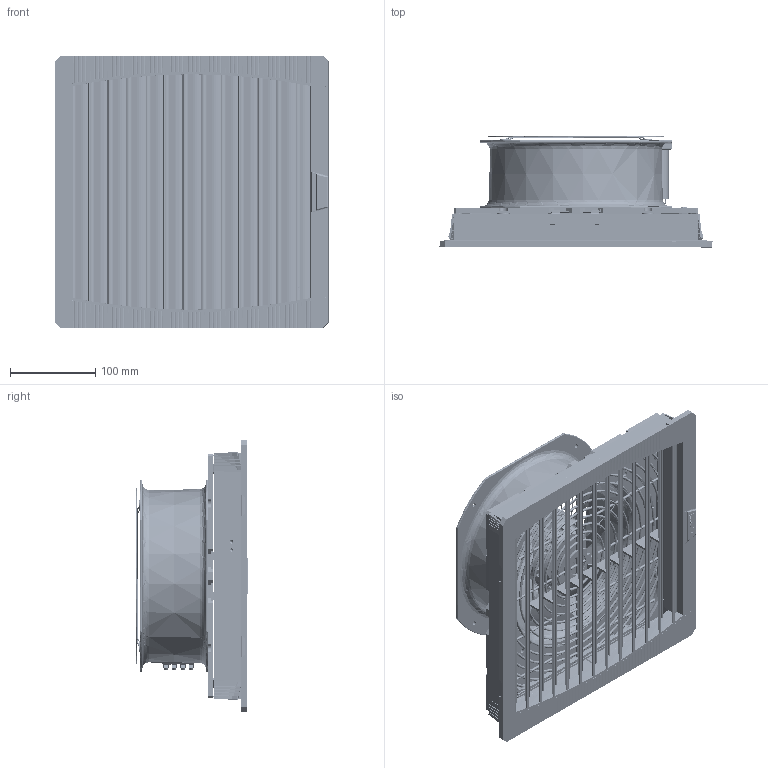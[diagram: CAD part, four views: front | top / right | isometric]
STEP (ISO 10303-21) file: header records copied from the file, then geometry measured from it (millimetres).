
FILE_DESCRIPTION (( 'STEP AP203' ), '1' );
FILE_NAME ('30167-103.STEP', '2017-07-27T18:43:33', ( '' ), ( '' ), 'SwSTEP 2.0', 'SolidWorks 2015', '' );
FILE_SCHEMA (( 'CONFIG_CONTROL_DESIGN' ));
Length unit declared in the file: millimetre
Products named in the file (9): 30167-049_Standard; Axial Lüfter Serie W2E200_Standard; 011000002 EBM 78128-2-4039_005047030 - LZ27; 30167-103; 30167-011_Standard; 30162-013_Standard; Schäumung PF6x000_Standard; 30167-061_Standard; 30167-040_Standard
Assembly tree (8 placements, depth 3):
  30167-103
    30167-011_Standard
    30162-013_Standard
    30167-040_Standard
      Schäumung PF6x000_Standard
      30167-061_Standard
    30167-049_Standard
    Axial Lüfter Serie W2E200_Standard
    011000002 EBM 78128-2-4039_005047030 - LZ27
Bounding box: 320.45 x 131.54 x 320 mm (x, y, z)
Volume: 811176.4 mm3; surface area: 1020256.6 mm2
Topology: 15 solids, 44 shells, 5371 faces, 15304 edges, 9200 vertices
Faces by surface type: plane 1964, cylinder 1354, bspline 1237, torus 475, cone 317, sphere 24
Entity records: 309142 total; most frequent: CARTESIAN_POINT 186493, ORIENTED_EDGE 28731, DIRECTION 20440, EDGE_CURVE 14579, VERTEX_POINT 9200, AXIS2_PLACEMENT_3D 6972, VECTOR 6496, LINE 6496
